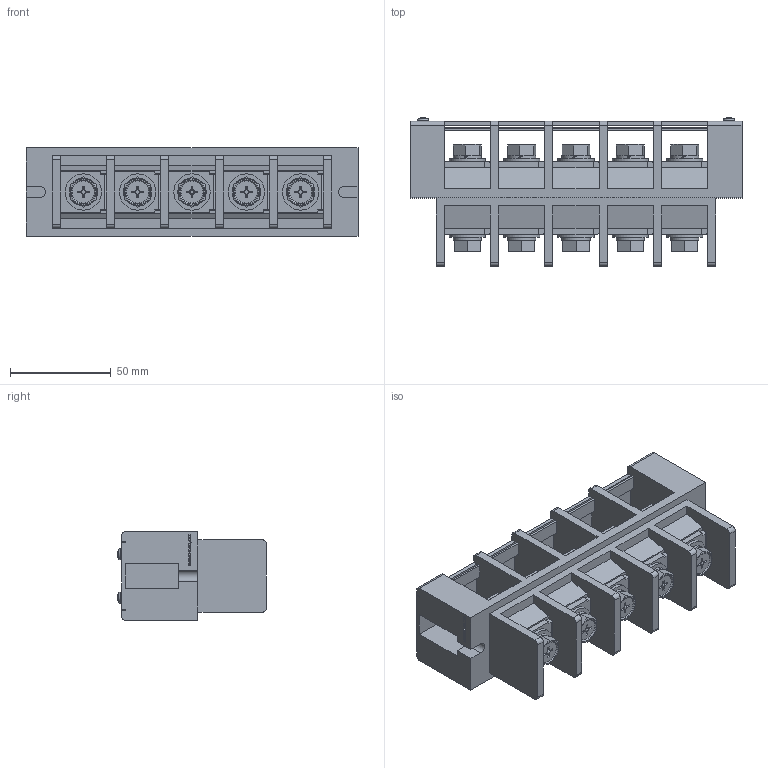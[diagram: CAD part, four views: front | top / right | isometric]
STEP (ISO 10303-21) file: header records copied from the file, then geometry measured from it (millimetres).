
FILE_DESCRIPTION(/* description */ ('Alibre Inc.'),/* implementation_level */ '2;1');
FILE_NAME(/* name */ 'export0',/* time_stamp */ '2016-04-05T18:38:09+09:00',/* author */ (''),/* organization */ (''),/* preprocessor_version */ 'ST-DEVELOPER v14',/* originating_system */ 'Alibre',/* authorisation */ '');
FILE_SCHEMA (('CONFIG_CONTROL_DESIGN'));
Length unit declared in the file: centimetre
Products named in the file (1): ID_1
Bounding box: 165 x 73.94 x 44 mm (x, y, z)
Volume: 198488.4 mm3; surface area: 87834.2 mm2
Topology: 2 solids, 4 shells, 1053 faces, 2865 edges, 1846 vertices
Faces by surface type: plane 783, cone 128, cylinder 86, bspline 52, sphere 2, torus 2
Full cylindrical faces by diameter (mm): 3 x4, 5.5 x2, 8 x10, 18 x10
Entity records: 29937 total; most frequent: CARTESIAN_POINT 6011, ORIENTED_EDGE 5610, DIRECTION 3761, EDGE_CURVE 2805, VERTEX_POINT 1834, VECTOR 1800, LINE 1800, AXIS2_PLACEMENT_3D 1313
